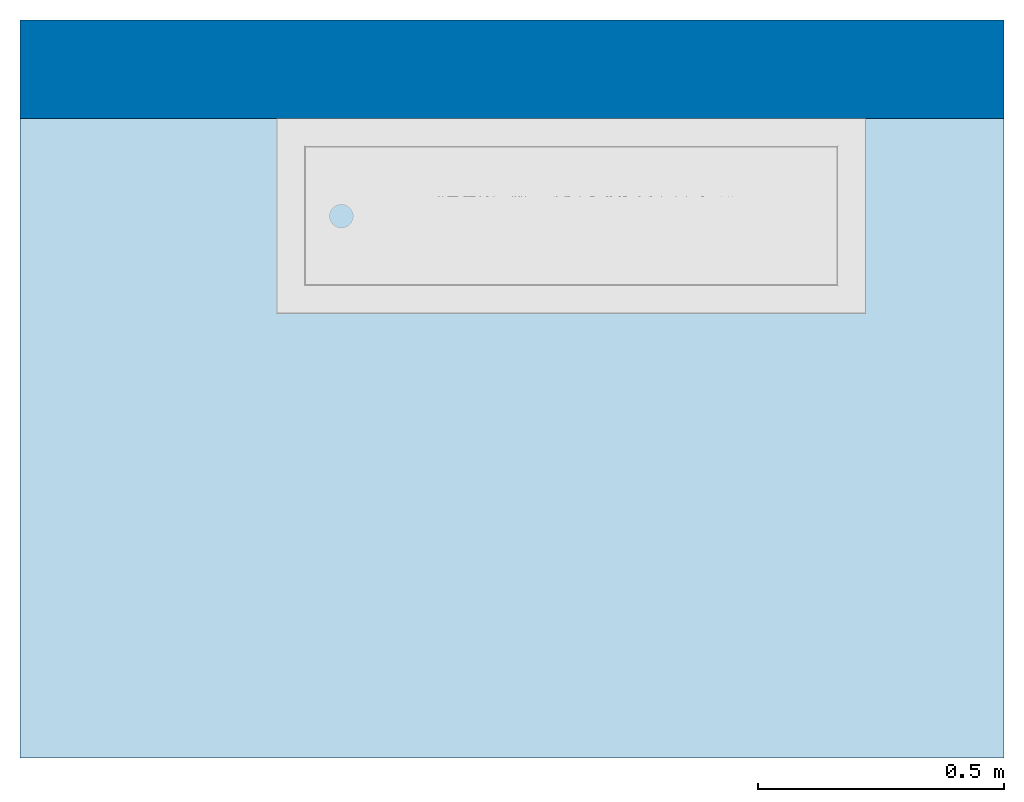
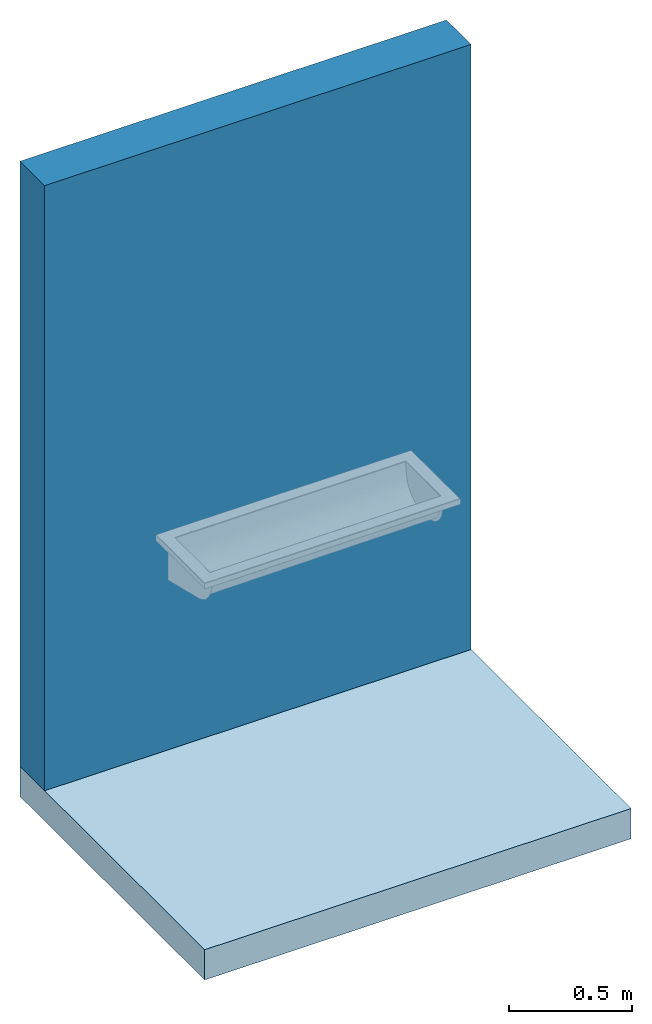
# One storey, incomplete: 1 slab, 1 wall.
"""IFC2X3 building model written with IfcOpenShell, lengths in millimetres."""

from ifc_helpers import new_model, entity, si_unit, converted_unit, derived_unit, direction, frame, frame_2d, origin, origin_2d_with_axis, place, context, subcontext, project, spatial, rectangle, extrude, material, layer, layer_set, layer_usage, type_object, element, save


model = new_model("IFC2X3")

# Units and contexts
model_context = context("Model", 3, precision=0.01, world=origin(), true_north=direction((6.12303176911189e-17, 1.0)))
context_of_model = context(None, 3, precision=0.01, world=origin(), true_north=direction((6.12303176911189e-17, 1.0)))
body_context = subcontext(model_context, "Body", "Model", "MODEL_VIEW")
ifc_project = project(units=[si_unit("LENGTHUNIT", "METRE", prefix="MILLI"), si_unit("AREAUNIT", "SQUARE_METRE"), si_unit("VOLUMEUNIT", "CUBIC_METRE"), converted_unit("PLANEANGLEUNIT", "DEGREE", entity("IfcRatioMeasure", 0.0174532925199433), si_unit("PLANEANGLEUNIT", "RADIAN"), dimensions=[0, 0, 0, 0, 0, 0, 0]), si_unit("MASSUNIT", "GRAM", prefix="KILO"), si_unit("TIMEUNIT", "SECOND"), si_unit("FREQUENCYUNIT", "HERTZ"), si_unit("THERMODYNAMICTEMPERATUREUNIT", "DEGREE_CELSIUS"), derived_unit("THERMALTRANSMITTANCEUNIT", [(si_unit("MASSUNIT", "GRAM", prefix="KILO"), 1), (si_unit("THERMODYNAMICTEMPERATUREUNIT", "KELVIN"), -1), (si_unit("TIMEUNIT", "SECOND"), -3)]), derived_unit("VOLUMETRICFLOWRATEUNIT", [(si_unit("LENGTHUNIT", "METRE"), 3), (si_unit("TIMEUNIT", "SECOND"), -1)]), si_unit("ELECTRICCURRENTUNIT", "AMPERE"), si_unit("ELECTRICVOLTAGEUNIT", "VOLT"), si_unit("POWERUNIT", "WATT"), si_unit("FORCEUNIT", "NEWTON", prefix="KILO"), si_unit("ILLUMINANCEUNIT", "LUX"), si_unit("LUMINOUSFLUXUNIT", "LUMEN"), si_unit("LUMINOUSINTENSITYUNIT", "CANDELA"), derived_unit("USERDEFINED", [(si_unit("MASSUNIT", "GRAM", prefix="KILO"), -1), (si_unit("LENGTHUNIT", "METRE"), -2), (si_unit("TIMEUNIT", "SECOND"), 3), (si_unit("LUMINOUSFLUXUNIT", "LUMEN"), 1)]), derived_unit("LINEARVELOCITYUNIT", [(si_unit("LENGTHUNIT", "METRE"), 1), (si_unit("TIMEUNIT", "SECOND"), -1)]), si_unit("PRESSUREUNIT", "PASCAL"), derived_unit("USERDEFINED", [(si_unit("LENGTHUNIT", "METRE"), -2), (si_unit("MASSUNIT", "GRAM", prefix="KILO"), 1), (si_unit("TIMEUNIT", "SECOND"), -2)])], contexts=[model_context, context_of_model])

# Site, building, storey
site_placement = place(None, origin())
site = spatial("IfcSite", under=ifc_project, at=site_placement, Name="Default", CompositionType="ELEMENT")
building_placement = place(site_placement, origin())
building = spatial("IfcBuilding", under=site, at=building_placement, CompositionType="ELEMENT")
storey_placement = place(building_placement, origin())
storey = spatial("IfcBuildingStorey", under=building, at=storey_placement, Name="Level 1", CompositionType="ELEMENT", Elevation=0.0)

# Slab
ifc_material_1 = material(Name="Default Floor")
ifc_layer_1 = layer(ifc_material_1, 150.0)
ifc_layer_set_1 = layer_set([ifc_layer_1], Name="Floor:Generic 150mm")
ifc_layer_usage_1 = layer_usage(ifc_layer_set_1, "AXIS3", "POSITIVE", 0.0)
slab_placement = place(storey_placement, origin())
element("IfcSlab", 1, at=slab_placement, inside=storey, material=ifc_layer_usage_1, Name="Floor:Generic 150mm", ObjectType="Floor:Generic 150mm", PredefinedType="FLOOR", context=body_context, shape_type="SweptSolid", body=[
    extrude(rectangle(XDim=1500.0, YDim=1999.99999999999, at=origin_2d_with_axis()), frame((-1743.87269428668, 246.269279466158, 0.0), z_axis=(0.0, 0.0, -1.0), x_axis=(0.0, 1.0, 0.0)), (0.0, 0.0, 1.0), 150.0),
])

# Wall
ifc_material_2 = material(Name="Default Wall")
ifc_layer_2 = layer(ifc_material_2, 200.0)
ifc_layer_set_2 = layer_set([ifc_layer_2], Name="Basic Wall:Generic - 200mm")
ifc_layer_usage_2 = layer_usage(ifc_layer_set_2, "AXIS2", "NEGATIVE", 100.0)
wall_type = type_object("IfcWallType", Name="Basic Wall:Generic - 200mm", PredefinedType="STANDARD", material=ifc_layer_set_2)
wall_placement = place(storey_placement, frame((-2743.87269428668, 896.269279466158, 0.0)))
element("IfcWallStandardCase", 2, at=wall_placement, inside=storey, type_object=wall_type, material=ifc_layer_usage_2, Name="Basic Wall:Generic - 200mm", ObjectType="Basic Wall:Generic - 200mm:398", context=body_context, shape_type="SweptSolid", body=[
    extrude(rectangle(XDim=2000.0, YDim=200.0, at=frame_2d((1000.0, 2.8421709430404e-14), x_axis=(-1.0, 0.0))), origin(), (0.0, 0.0, 1.0), 3000.0),
])

save(model, "model.ifc")
